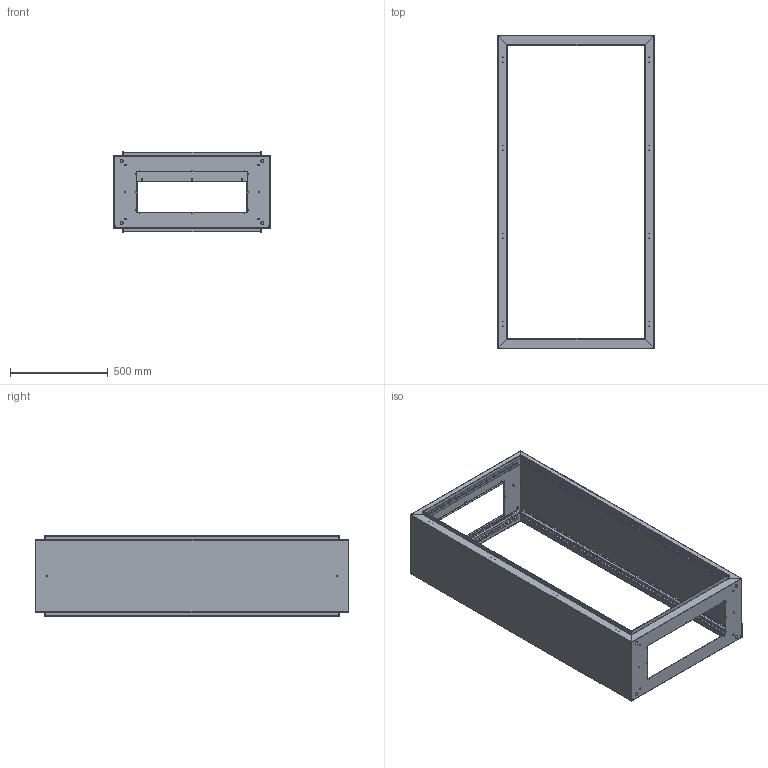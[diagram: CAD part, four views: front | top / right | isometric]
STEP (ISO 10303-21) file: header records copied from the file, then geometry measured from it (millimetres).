
FILE_DESCRIPTION (( 'STEP AP203' ), '1' );
FILE_NAME ('800x1600x400.STEP', '2021-11-11T16:44:57', ( '' ), ( '' ), 'SwSTEP 2.0', 'SolidWorks 2019', '' );
FILE_SCHEMA (( 'CONFIG_CONTROL_DESIGN' ));
Products named in the file (4): Yan Kapak 1,5mm_monoblok_tekkapakrevize_PP 16.1002 - 1600Yx400D YAN; 800x1600x400; Üst Kapak 1,5mm_monoblok_tekkapakrevize_PP 16.1010 800Gx400D šST; Alt Kapak 1,5mm_monoblok_tekkapakrevize_PP 16.1019 800Gx400D ALT
Assembly tree (4 placements, depth 2):
  800x1600x400
    Alt Kapak 1,5mm_monoblok_tekkapakrevize_PP 16.1019 800Gx400D ALT
    Üst Kapak 1,5mm_monoblok_tekkapakrevize_PP 16.1010 800Gx400D šST
    Yan Kapak 1,5mm_monoblok_tekkapakrevize_PP 16.1002 - 1600Yx400D YAN  x2
Bounding box: 800 x 1600 x 411.92 mm (x, y, z)
Volume: 4213515.1 mm3; surface area: 5698562.5 mm2
Topology: 4 solids, 4 shells, 4652 faces, 13668 edges, 9032 vertices
Faces by surface type: plane 3020, cylinder 1616, bspline 16
Entity records: 108266 total; most frequent: CARTESIAN_POINT 18863, ORIENTED_EDGE 18352, DIRECTION 17550, EDGE_CURVE 9176, VECTOR 7008, LINE 7008, VERTEX_POINT 6056, AXIS2_PLACEMENT_3D 5271
